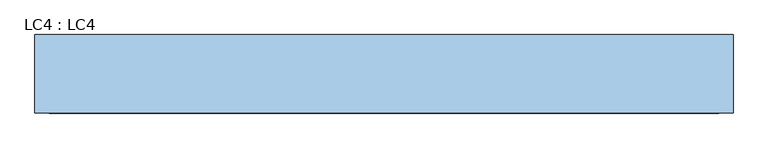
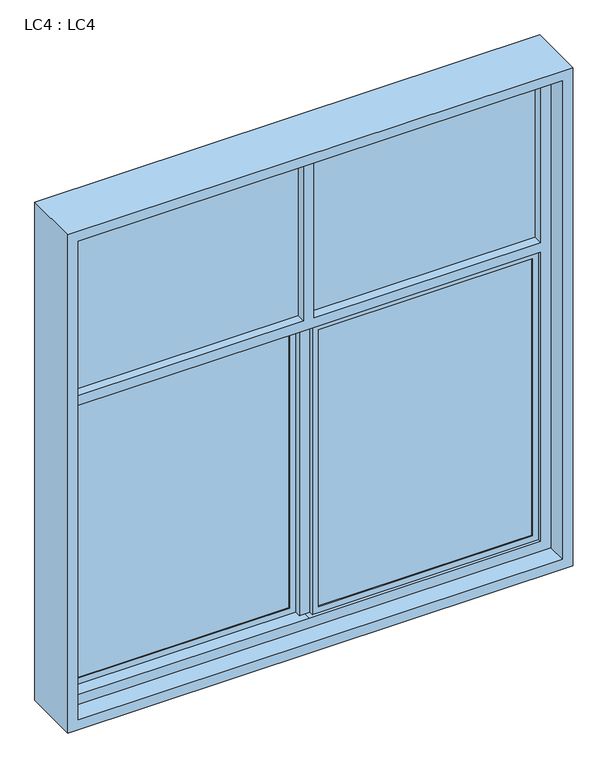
"""IFC4 building model written with IfcOpenShell, lengths in millimetres: window geometry, LC4 : LC4."""

from ifc_helpers import new_model, si_unit, frame, origin, place, context, project, spatial, polyline, outline, extrude, source, transform, mapped, element, save


def lc4_lc4_8787b09e(model_context):
    return source(origin(), model_context, "Body", "SweptSolid", [
        extrude(outline(polyline([(1070.0, -20.0), (1070.0, -30.0), (55.0, -30.0), (55.0, -20.0), (1070.0, -20.0)])), frame((0.0, 0.0, 1030.0), z_axis=(0.0, 0.0, 1.0), x_axis=(1.0, 0.0, 0.0)), (0.0, 0.0, 1.0), 1390.0),
        extrude(outline(polyline([(-55.0, 30.0), (-55.0, 20.0), (-1070.0, 20.0), (-1070.0, 30.0), (-55.0, 30.0)])), frame((0.0, 0.0, 1030.0), z_axis=(0.0, 0.0, 1.0), x_axis=(1.0, 0.0, 0.0)), (0.0, 0.0, 1.0), 1390.0),
        extrude(outline(polyline([(-25.0, 5.0), (-25.0, -5.0), (-1100.0, -5.0), (-1100.0, 5.0), (-25.0, 5.0)])), frame((0.0, 0.0, 2500.0), z_axis=(0.0, 0.0, 1.0), x_axis=(1.0, 0.0, 0.0)), (0.0, 0.0, 1.0), 800.0),
        extrude(outline(polyline([(1100.0, 5.0), (1100.0, -5.0), (25.0, -5.0), (25.0, 5.0), (1100.0, 5.0)])), frame((0.0, 0.0, 2500.0), z_axis=(0.0, 0.0, 1.0), x_axis=(1.0, 0.0, 0.0)), (0.0, 0.0, 1.0), 800.0),
        extrude(outline(polyline([(25.0, 15.0), (25.0, -15.0), (-25.0, -15.0), (-25.0, 15.0), (25.0, 15.0)])), frame((0.0, 0.0, 1000.0), z_axis=(0.0, 0.0, 1.0), x_axis=(1.0, 0.0, 0.0)), (0.0, 0.0, 1.0), 1450.0),
        extrude(outline(polyline([(2450.0, 1100.0), (2450.0, 25.0), (1000.0, 25.0), (1000.0, 1100.0), (2450.0, 1100.0)]), holes=[polyline([(2420.0, 1070.0), (1030.0, 1070.0), (1030.0, 55.0), (2420.0, 55.0), (2420.0, 1070.0)])]), frame((0.0, -35.0, 0.0), z_axis=(0.0, 1.0, 0.0), x_axis=(0.0, 0.0, 1.0)), (0.0, 0.0, 1.0), 20.0),
        extrude(outline(polyline([(2450.0, -25.0), (2450.0, -1100.0), (1000.0, -1100.0), (1000.0, -25.0), (2450.0, -25.0)]), holes=[polyline([(2420.0, -55.0), (1030.0, -55.0), (1030.0, -1070.0), (2420.0, -1070.0), (2420.0, -55.0)])]), frame((0.0, 15.0, 0.0), z_axis=(0.0, 1.0, 0.0), x_axis=(0.0, 0.0, 1.0)), (0.0, 0.0, 1.0), 20.0),
        extrude(outline(polyline([(3350.0, 1150.0), (3350.0, -1150.0), (950.0, -1150.0), (950.0, 1150.0), (3350.0, 1150.0)]), holes=[polyline([(3300.0, -25.0), (2500.0, -25.0), (2500.0, -1100.0), (3300.0, -1100.0), (3300.0, -25.0)]), polyline([(3300.0, 1100.0), (2500.0, 1100.0), (2500.0, 25.0), (3300.0, 25.0), (3300.0, 1100.0)]), polyline([(2450.0, 1.4599267), (2450.0, 1100.0), (1000.0, 1100.0), (1000.0, 1.4599267), (1000.0, -1100.0), (2450.0, -1100.0), (2450.0, 1.4599267)])]), frame((0.0, -50.0, 0.0), z_axis=(0.0, 1.0, 0.0), x_axis=(0.0, 0.0, 1.0)), (0.0, 0.0, 1.0), 100.0),
        extrude(outline(polyline([(3400.0, 1200.0), (3400.0, -1200.0), (900.0, -1200.0), (900.0, 1200.0), (3400.0, 1200.0)]), holes=[polyline([(3350.0, 1150.0), (950.0, 1150.0), (950.0, -1150.0), (3350.0, -1150.0), (3350.0, 1150.0)])]), frame((0.0, -143.6988661, 0.0), z_axis=(0.0, 1.0, 0.0), x_axis=(0.0, 0.0, 1.0)), (0.0, 0.0, 1.0), 270.0),
    ])


if __name__ == "__main__":
    model = new_model("IFC4")
    model_context = context("Model", 3, world=origin())
    ifc_project = project(units=[si_unit("LENGTHUNIT", "METRE", prefix="MILLI")], contexts=[model_context])
    site = spatial("IfcSite", under=ifc_project)
    building = spatial("IfcBuilding", under=site)
    placement = place(None, origin())
    lc4_lc4_shape = lc4_lc4_8787b09e(model_context)
    element("IfcWindow", 1, ObjectType="LC4 : LC4", at=placement, inside=building, context=model_context, shape_type="MappedRepresentation", body=[
        mapped(lc4_lc4_shape, transform((0.0, 0.0, 0.0), x_axis=(1.0, 0.0, 0.0), y_axis=(0.0, 1.0, 0.0), z_axis=(0.0, 0.0, 1.0))),
    ])
    save(model, "model.ifc")
